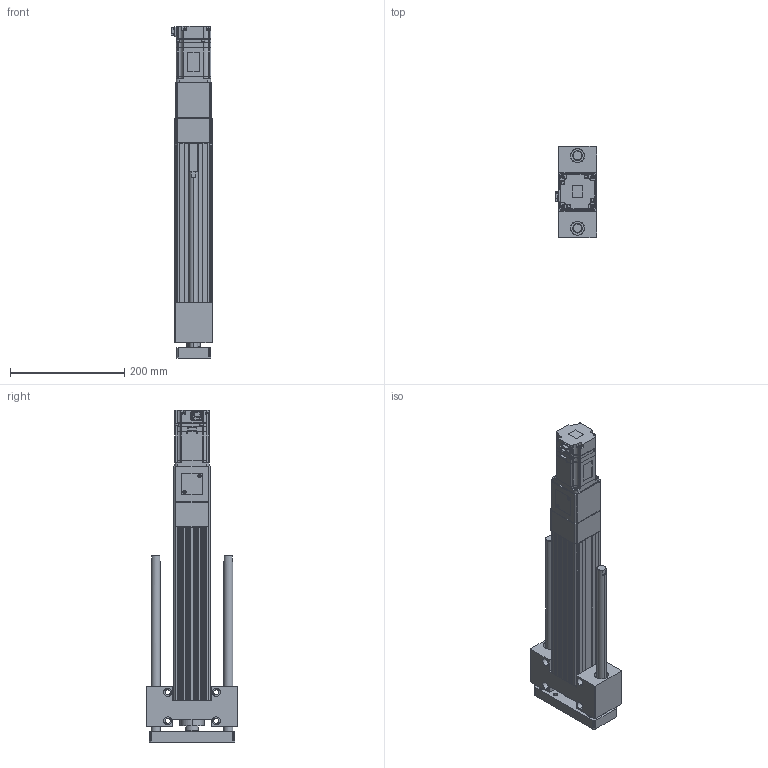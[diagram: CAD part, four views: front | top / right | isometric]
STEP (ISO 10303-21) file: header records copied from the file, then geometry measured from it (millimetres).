
FILE_DESCRIPTION (( 'STEP AP203' ), '1' );
FILE_NAME ('ANS065R-HS200-05(10)(20)-W40.STEP', '2019-03-01T09:12:22', ( 'user' ), ( '' ), 'SwSTEP 2.0', 'SolidWorks 2013', '' );
FILE_SCHEMA (( 'CONFIG_CONTROL_DESIGN' ));
Length unit declared in the file: millimetre
Products named in the file (4): ANS065R HS200 VER2; ANS065 ROD ST200 G; sgmjv_04a_a21; ANS065R-HS200-05(10)(20)-W40
Assembly tree (3 placements, depth 2):
  ANS065R-HS200-05(10)(20)-W40
    ANS065R HS200 VER2
    ANS065 ROD ST200 G
    sgmjv_04a_a21
Bounding box: 72.3 x 160 x 580.6 mm (x, y, z)
Volume: 2093848.5 mm3; surface area: 427306.1 mm2
Topology: 3 solids, 7 shells, 1236 faces, 3237 edges, 2087 vertices
Faces by surface type: plane 696, cylinder 430, cone 110
Entity records: 38235 total; most frequent: CARTESIAN_POINT 6780, DIRECTION 6559, ORIENTED_EDGE 6418, EDGE_CURVE 3209, LINE 2199, VECTOR 2199, AXIS2_PLACEMENT_3D 2180, VERTEX_POINT 2087
